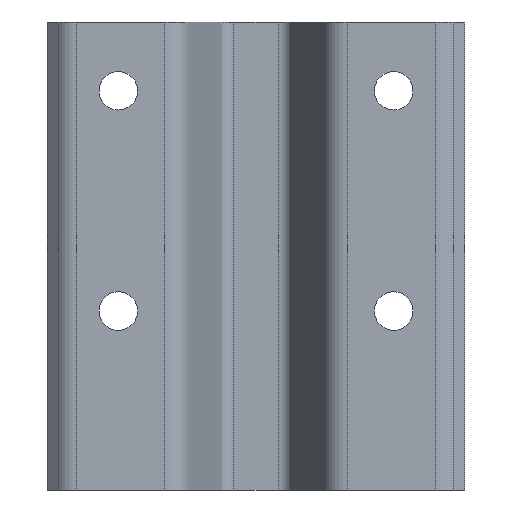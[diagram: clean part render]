
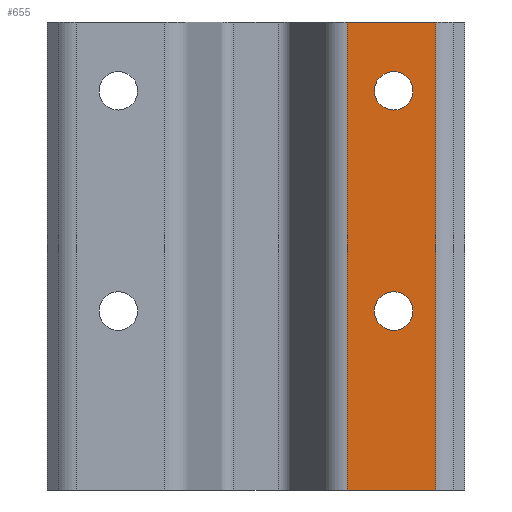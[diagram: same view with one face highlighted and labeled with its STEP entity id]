
A CAD part, front view. The second image highlights one B-rep face of the part: STEP entity #655.
In plain terms, the highlighted planar face has unit normal (0, -1, 0).
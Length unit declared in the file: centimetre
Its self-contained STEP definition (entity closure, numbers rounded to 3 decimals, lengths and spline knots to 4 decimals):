
#18=FACE_BOUND('',#88,.T.);
#19=FACE_BOUND('',#89,.T.);
#29=PLANE('',#701);
#51=FACE_OUTER_BOUND('',#87,.T.);
#87=EDGE_LOOP('',(#476,#477,#478,#479));
#88=EDGE_LOOP('',(#480));
#89=EDGE_LOOP('',(#481));
#137=LINE('',#1006,#201);
#138=LINE('',#1010,#202);
#139=LINE('',#1012,#203);
#140=LINE('',#1013,#204);
#201=VECTOR('',#805,1.);
#202=VECTOR('',#810,1.);
#203=VECTOR('',#811,1.);
#204=VECTOR('',#812,1.);
#256=CIRCLE('',#702,7.);
#257=CIRCLE('',#703,7.);
#298=VERTEX_POINT('',#1003);
#299=VERTEX_POINT('',#1005);
#300=VERTEX_POINT('',#1009);
#301=VERTEX_POINT('',#1011);
#302=VERTEX_POINT('',#1014);
#303=VERTEX_POINT('',#1016);
#370=EDGE_CURVE('',#299,#298,#137,.T.);
#372=EDGE_CURVE('',#298,#300,#138,.T.);
#373=EDGE_CURVE('',#301,#300,#139,.T.);
#374=EDGE_CURVE('',#301,#299,#140,.T.);
#375=EDGE_CURVE('',#302,#302,#256,.T.);
#376=EDGE_CURVE('',#303,#303,#257,.T.);
#476=ORIENTED_EDGE('',*,*,#372,.T.);
#477=ORIENTED_EDGE('',*,*,#373,.F.);
#478=ORIENTED_EDGE('',*,*,#374,.T.);
#479=ORIENTED_EDGE('',*,*,#370,.T.);
#480=ORIENTED_EDGE('',*,*,#375,.T.);
#481=ORIENTED_EDGE('',*,*,#376,.T.);
#655=ADVANCED_FACE('',(#51,#18,#19),#29,.T.);
#701=AXIS2_PLACEMENT_3D('',#1008,#808,#809);
#702=AXIS2_PLACEMENT_3D('',#1015,#813,#814);
#703=AXIS2_PLACEMENT_3D('',#1017,#815,#816);
#805=DIRECTION('',(0.,0.,1.));
#808=DIRECTION('center_axis',(0.,-1.,0.));
#809=DIRECTION('ref_axis',(1.,0.,0.));
#810=DIRECTION('',(-1.,0.,0.));
#811=DIRECTION('',(0.,0.,1.));
#812=DIRECTION('',(1.,0.,0.));
#813=DIRECTION('center_axis',(0.,1.,0.));
#814=DIRECTION('ref_axis',(1.,0.,0.));
#815=DIRECTION('center_axis',(0.,1.,0.));
#816=DIRECTION('ref_axis',(1.,0.,0.));
#1003=CARTESIAN_POINT('',(-494.7055,356.3958,170.));
#1005=CARTESIAN_POINT('',(-494.7055,356.3958,0.));
#1006=CARTESIAN_POINT('',(-494.7055,356.3958,0.));
#1008=CARTESIAN_POINT('Origin',(-509.9576,356.3958,47.));
#1009=CARTESIAN_POINT('',(-526.8498,356.3958,170.));
#1010=CARTESIAN_POINT('',(-526.8498,356.3958,170.));
#1011=CARTESIAN_POINT('',(-526.8498,356.3958,0.));
#1012=CARTESIAN_POINT('',(-526.8498,356.3958,0.));
#1013=CARTESIAN_POINT('',(-526.8498,356.3958,0.));
#1014=CARTESIAN_POINT('',(-516.9576,356.3958,65.));
#1015=CARTESIAN_POINT('Origin',(-509.9576,356.3958,65.));
#1016=CARTESIAN_POINT('',(-516.9576,356.3958,145.));
#1017=CARTESIAN_POINT('Origin',(-509.9576,356.3958,145.));
